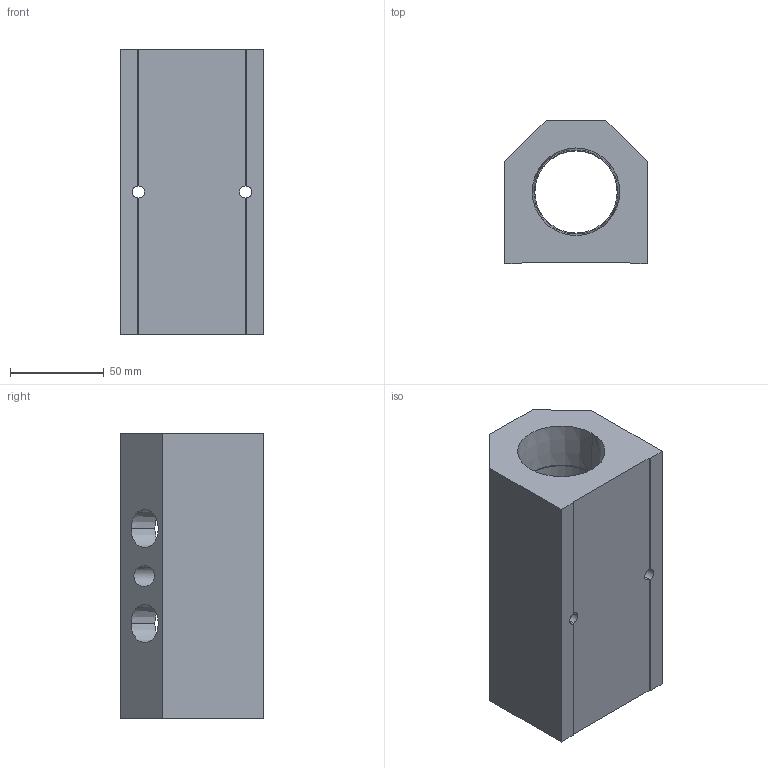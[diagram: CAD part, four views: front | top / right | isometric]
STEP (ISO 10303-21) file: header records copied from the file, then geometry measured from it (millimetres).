
FILE_DESCRIPTION (( 'STEP AP214' ), '1' );
FILE_NAME ('ALM2BCD-N8N24-152R.step', '2022-02-07T09:23:13', ( '' ), ( '' ), 'SwSTEP 2.0', 'SolidWorks 2020', '' );
FILE_SCHEMA (( 'AUTOMOTIVE_DESIGN' ));
Length unit declared in the file: millimetre
Products named in the file (1): ALM2BCD-N8N24-152R
Bounding box: 76.2 x 76.2 x 152 mm (x, y, z)
Volume: 528718.4 mm3; surface area: 76517.9 mm2
Topology: 1 solids, 1 shells, 311 faces, 833 edges, 554 vertices
Faces by surface type: plane 210, bspline 75, cone 16, cylinder 10
Entity records: 17969 total; most frequent: CARTESIAN_POINT 7650, ORIENTED_EDGE 1666, DIRECTION 1161, EDGE_CURVE 833, VECTOR 615, LINE 615, VERTEX_POINT 554, EDGE_LOOP 359
